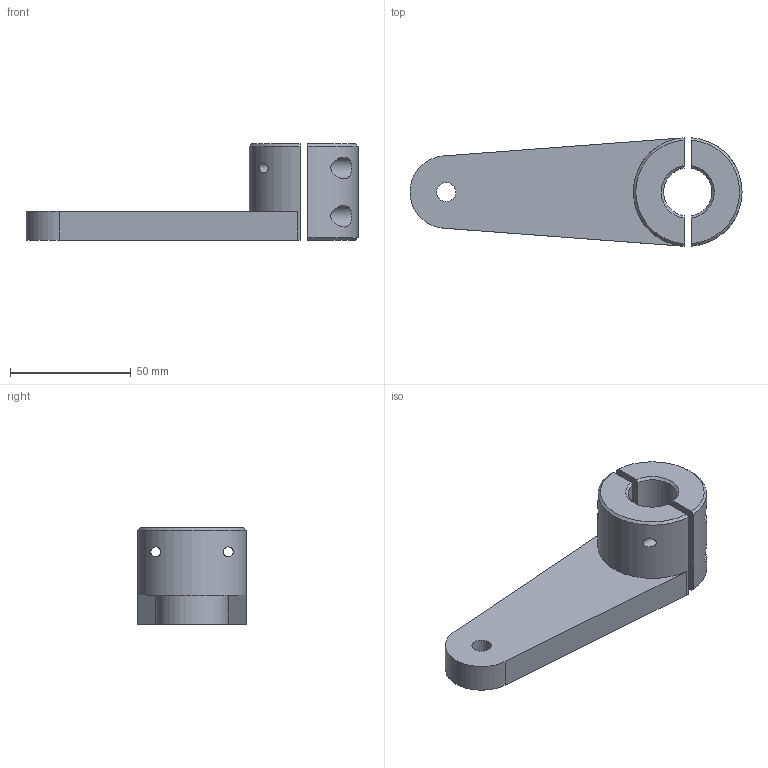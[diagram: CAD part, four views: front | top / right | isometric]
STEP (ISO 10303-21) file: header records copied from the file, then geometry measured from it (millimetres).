
FILE_DESCRIPTION( ( 'Unknown' ), '1' );
FILE_NAME( 'F:/navkite transat/construction/2016/3D ET ASSEMBLAGES/AMI/AMI 22.stp', 'Unknown', ( 'GMA' ), ( 'Unknown' ), 'XStep 1.0', 'Unknown', ' ' );
FILE_SCHEMA( ( 'automotive_design' ) );
Length unit declared in the file: millimetre
Products named in the file (3): 1; 2; 3
Bounding box: 137.5 x 44.9 x 40 mm (x, y, z)
Volume: 83995.8 mm3; surface area: 24066.4 mm2
Topology: 3 solids, 3 shells, 42 faces, 105 edges, 73 vertices
Faces by surface type: cylinder 19, plane 16, cone 7
Full cylindrical faces by diameter (mm): 4.134 x4, 5.2 x4, 8 x1, 9 x4
Entity records: 2072 total; most frequent: CARTESIAN_POINT 758, DIRECTION 188, ORIENTED_EDGE 166, EDGE_CURVE 83, AXIS2_PLACEMENT_3D 82, EDGE_LOOP 77, VERTEX_POINT 64, FACE_OUTER_BOUND 55
